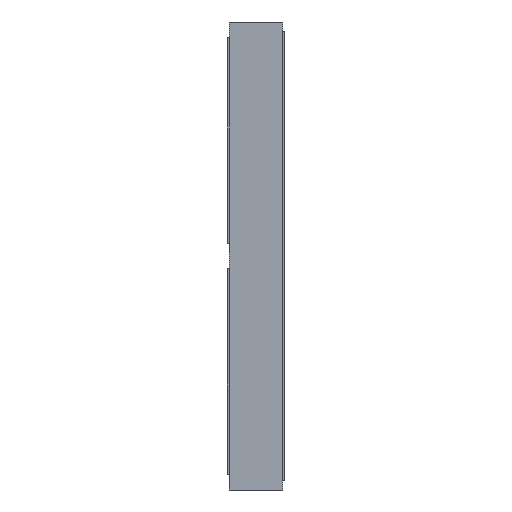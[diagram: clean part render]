
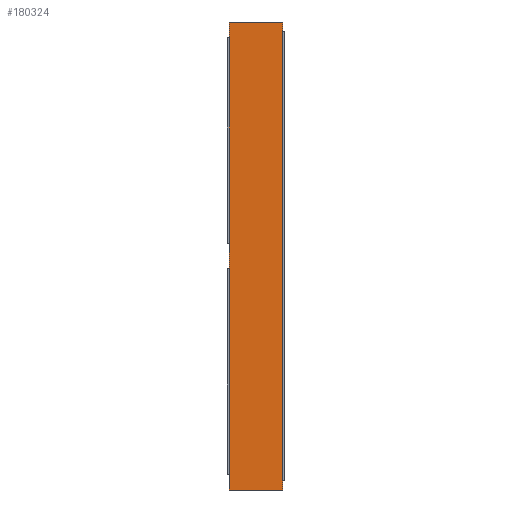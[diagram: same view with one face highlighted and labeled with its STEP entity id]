
A CAD part, left-side view. The second image highlights one B-rep face of the part: STEP entity #180324.
In plain terms, the highlighted planar face has unit normal (-1, 0, 0).
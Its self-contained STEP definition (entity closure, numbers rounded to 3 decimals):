
#30280 = EDGE_CURVE ( 'NONE', #124830, #181493, #179046, .T. ) ;
#33771 = LINE ( 'NONE', #78437, #74483 ) ;
#50308 = CARTESIAN_POINT ( 'NONE',  ( 0., 0.85, 0. ) ) ;
#55422 = CARTESIAN_POINT ( 'NONE',  ( 0., 0., 0. ) ) ;
#58873 = DIRECTION ( 'NONE',  ( 1., 0., 0. ) ) ;
#60748 = DIRECTION ( 'NONE',  ( 0., 0., -1. ) ) ;
#65586 = CARTESIAN_POINT ( 'NONE',  ( 0., 0.85, 0. ) ) ;
#74011 = CARTESIAN_POINT ( 'NONE',  ( 0., 0.85, -7.5 ) ) ;
#74483 = VECTOR ( 'NONE', #122368, 1000. ) ;
#75504 = VECTOR ( 'NONE', #183224, 1000. ) ;
#78437 = CARTESIAN_POINT ( 'NONE',  ( 0., 0.85, -7.5 ) ) ;
#85097 = EDGE_CURVE ( 'NONE', #88168, #162244, #33771, .T. ) ;
#88168 = VERTEX_POINT ( 'NONE', #74011 ) ;
#90429 = CARTESIAN_POINT ( 'NONE',  ( 0., 0., 0. ) ) ;
#90454 = ORIENTED_EDGE ( 'NONE', *, *, #135998, .T. ) ;
#90718 = ORIENTED_EDGE ( 'NONE', *, *, #30280, .F. ) ;
#91424 = ORIENTED_EDGE ( 'NONE', *, *, #85097, .T. ) ;
#106355 = DIRECTION ( 'NONE',  ( 0., 0., 1. ) ) ;
#108723 = EDGE_LOOP ( 'NONE', ( #90454, #90718, #123164, #91424 ) ) ;
#118372 = FACE_OUTER_BOUND ( 'NONE', #108723, .T. ) ;
#122368 = DIRECTION ( 'NONE',  ( 0., -1., 0. ) ) ;
#123164 = ORIENTED_EDGE ( 'NONE', *, *, #140426, .F. ) ;
#124176 = CARTESIAN_POINT ( 'NONE',  ( 0., 0.85, 0. ) ) ;
#124830 = VERTEX_POINT ( 'NONE', #50308 ) ;
#131819 = LINE ( 'NONE', #90429, #163844 ) ;
#132333 = CARTESIAN_POINT ( 'NONE',  ( 0., 0., -7.5 ) ) ;
#133284 = CARTESIAN_POINT ( 'NONE',  ( 0., 0.85, 0. ) ) ;
#135998 = EDGE_CURVE ( 'NONE', #162244, #181493, #131819, .T. ) ;
#140426 = EDGE_CURVE ( 'NONE', #88168, #124830, #152942, .T. ) ;
#152942 = LINE ( 'NONE', #65586, #75504 ) ;
#162244 = VERTEX_POINT ( 'NONE', #132333 ) ;
#162642 = PLANE ( 'NONE',  #168456 ) ;
#163844 = VECTOR ( 'NONE', #106355, 1000. ) ;
#168456 = AXIS2_PLACEMENT_3D ( 'NONE', #133284, #58873, #60748 ) ;
#168733 = DIRECTION ( 'NONE',  ( 0., -1., 0. ) ) ;
#169991 = VECTOR ( 'NONE', #168733, 1000. ) ;
#179046 = LINE ( 'NONE', #124176, #169991 ) ;
#180324 = ADVANCED_FACE ( 'NONE', ( #118372 ), #162642, .F. ) ;
#181493 = VERTEX_POINT ( 'NONE', #55422 ) ;
#183224 = DIRECTION ( 'NONE',  ( 0., 0., 1. ) ) ;
